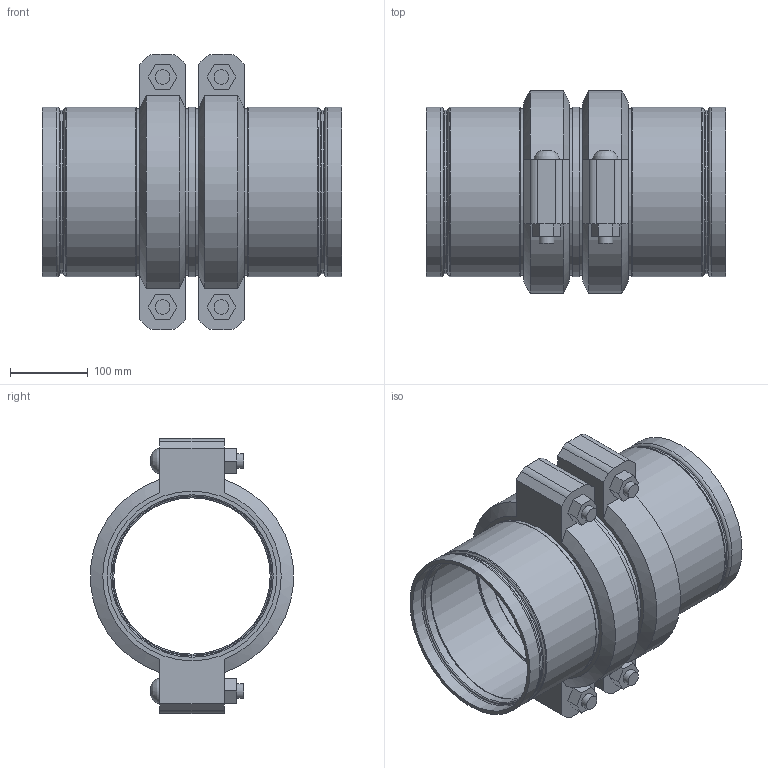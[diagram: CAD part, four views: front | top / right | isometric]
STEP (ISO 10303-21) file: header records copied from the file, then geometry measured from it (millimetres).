
FILE_DESCRIPTION(/* description */ ('VIC STRENGTHIN 100 EXPANSION JOINT 2 COUPLINGS EXPANDED STYLE E155 (ST1)','CAx-IF Rec.Pracs.---Representation and Presentation of Product Manufacturing Information (PMI)---4.0---2014-10-13'),/* implementation_level */ '2;1');
FILE_NAME(/* name */ 'C:\Users\Vjadhav\AppData\Roaming\Autodesk\ApplicationPlugins\Victaulic.Temp\A901\Victaulic_SS-StrengThin 100_Expansion Joint_Expanded_2 Couplings_Style E155 (ST1)_8 (200).stp',/* time_stamp */ '2021-07-23T19:27:14+06:00',/* author */ ('kkamble'),/* organization */ ('Victaulic'),/* preprocessor_version */ 'ST-DEVELOPER v17.2',/* originating_system */ 'Autodesk Inventor 2019',/* authorisation */ '');
FILE_SCHEMA (('AP242_MANAGED_MODEL_BASED_3D_ENGINEERING_MIM_LF { 1 0 10303 442 1 1 4 }'));
Length unit declared in the file: inch
Products named in the file (4): E155-08.0; E494G-08.0; Nipple-08.0; 075-08.0
Assembly tree (5 placements, depth 2):
  E155-08.0
    E494G-08.0  x2
    Nipple-08.0
    075-08.0  x2
Bounding box: 386.59 x 261.72 x 354.84 mm (x, y, z)
Volume: 4124518.4 mm3; surface area: 891563.3 mm2
Topology: 5 solids, 9 shells, 196 faces, 526 edges, 378 vertices
Faces by surface type: plane 92, cylinder 56, torus 32, cone 12, bspline 4
Full cylindrical faces by diameter (mm): 19.05 x8, 21.209 x4, 201.651 x2, 202.717 x1, 204.851 x2, 209.525 x6, 211.201 x2, 212.725 x2, 214.401 x4, 219.075 x13
Entity records: 3753 total; most frequent: DIRECTION 663, CARTESIAN_POINT 660, ORIENTED_EDGE 556, AXIS2_PLACEMENT_3D 282, EDGE_CURVE 278, VERTEX_POINT 201, CIRCLE 171, EDGE_LOOP 131
